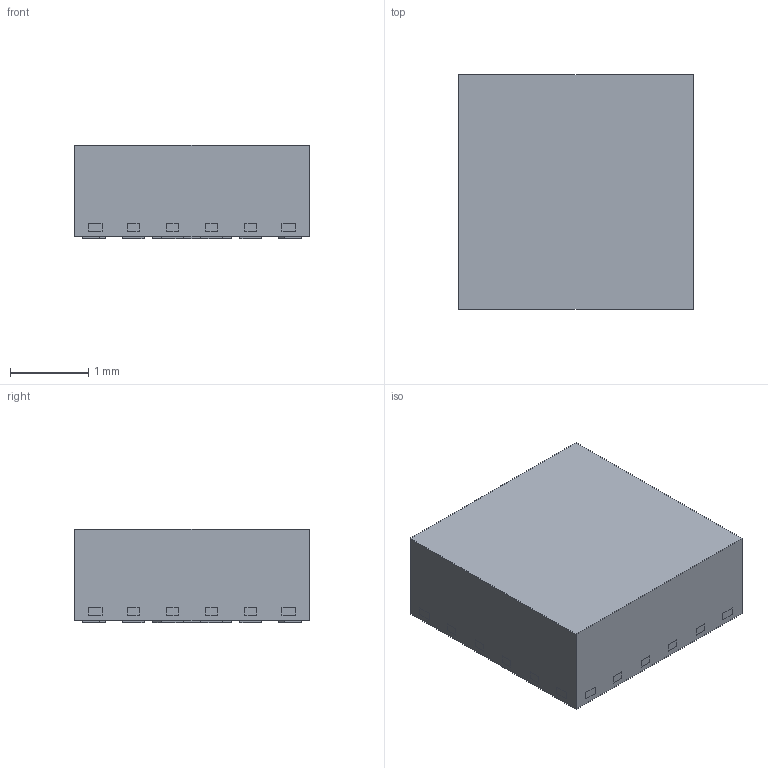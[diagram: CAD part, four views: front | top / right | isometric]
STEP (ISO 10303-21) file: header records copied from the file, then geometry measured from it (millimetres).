
FILE_DESCRIPTION((''),'2;1');
FILE_NAME('RER0016A_ASM','2022-10-12T08:03:15',('a0412086'),(''),'CREO PARAMETRIC BY PTC INC, 2018500','CREO PARAMETRIC BY PTC INC, 2018500','');
FILE_SCHEMA(('CONFIG_CONTROL_DESIGN','SHAPE_APPEARANCE_LAYERS_GROUPS'));
Length unit declared in the file: millimetre
Products named in the file (4): BODY-QFN; FRAME-QFN; PIN1-ID; RER0016A_ASM
Assembly tree (3 placements, depth 2):
  RER0016A_ASM
    BODY-QFN
    FRAME-QFN
    PIN1-ID
Bounding box: 3 x 3 x 1.2 mm (x, y, z)
Volume: 10.6 mm3; surface area: 60.4 mm2
Topology: 22 solids, 22 shells, 393 faces, 1038 edges, 692 vertices
Faces by surface type: plane 393
Entity records: 15509 total; most frequent: CARTESIAN_POINT 2130, ORIENTED_EDGE 2076, DIRECTION 1838, PRESENTATION_STYLE_ASSIGNMENT 1084, STYLED_ITEM 1060, VECTOR 1038, LINE 1038, CURVE_STYLE 1038
